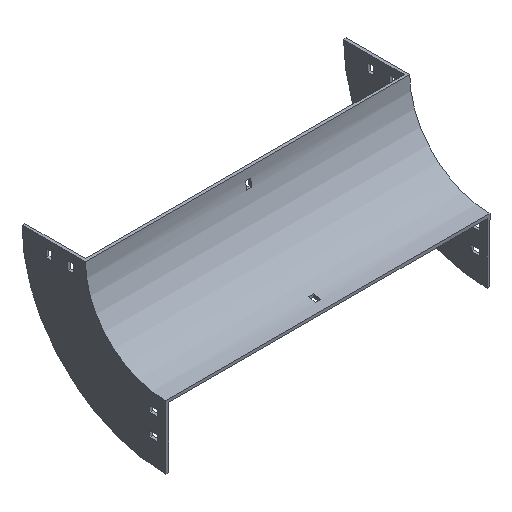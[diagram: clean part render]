
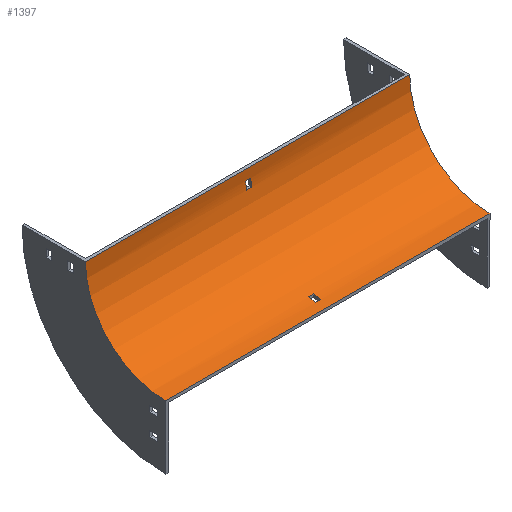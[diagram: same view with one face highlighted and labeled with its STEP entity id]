
A CAD part, isometric view. The second image highlights one B-rep face of the part: STEP entity #1397.
In plain terms, the highlighted cylindrical face has radius 100 mm (diameter 200 mm), a partial arc.
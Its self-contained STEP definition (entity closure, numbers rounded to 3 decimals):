
#3 = CARTESIAN_POINT ( 'NONE',  ( -202., 0., 0. ) ) ;
#36 = CARTESIAN_POINT ( 'NONE',  ( -3.25, -100., 0. ) ) ;
#68 = DIRECTION ( 'NONE',  ( -1., 0., 0. ) ) ;
#78 = DIRECTION ( 'NONE',  ( 0., 0., 1. ) ) ;
#86 = CIRCLE ( 'NONE', #1533, 100. ) ;
#101 = CARTESIAN_POINT ( 'NONE',  ( 3.25, -2.23, -21. ) ) ;
#103 = CARTESIAN_POINT ( 'NONE',  ( -3.25, -2.23, -21. ) ) ;
#105 = CARTESIAN_POINT ( 'NONE',  ( 202., -100., -100. ) ) ;
#108 = EDGE_CURVE ( 'NONE', #791, #602, #1205, .T. ) ;
#113 = CARTESIAN_POINT ( 'NONE',  ( 3.25, -79., -97.77 ) ) ;
#139 = VERTEX_POINT ( 'NONE', #1169 ) ;
#159 = VERTEX_POINT ( 'NONE', #443 ) ;
#180 = AXIS2_PLACEMENT_3D ( 'NONE', #1145, #1061, #1467 ) ;
#184 = DIRECTION ( 'NONE',  ( 0., -1., 0. ) ) ;
#190 = CIRCLE ( 'NONE', #862, 100. ) ;
#227 = CYLINDRICAL_SURFACE ( 'NONE', #1514, 100. ) ;
#252 = VERTEX_POINT ( 'NONE', #103 ) ;
#274 = ORIENTED_EDGE ( 'NONE', *, *, #502, .F. ) ;
#279 = CIRCLE ( 'NONE', #928, 100. ) ;
#296 = ORIENTED_EDGE ( 'NONE', *, *, #1340, .T. ) ;
#334 = ORIENTED_EDGE ( 'NONE', *, *, #1692, .T. ) ;
#357 = DIRECTION ( 'NONE',  ( -1., 0., 0. ) ) ;
#364 = CARTESIAN_POINT ( 'NONE',  ( 3.25, -0.723, -12. ) ) ;
#370 = CARTESIAN_POINT ( 'NONE',  ( 202., 0., 0. ) ) ;
#388 = EDGE_LOOP ( 'NONE', ( #274, #929, #1370, #415 ) ) ;
#415 = ORIENTED_EDGE ( 'NONE', *, *, #108, .F. ) ;
#420 = CARTESIAN_POINT ( 'NONE',  ( -202., -100., -100. ) ) ;
#443 = CARTESIAN_POINT ( 'NONE',  ( 202., 0., 0. ) ) ;
#458 = DIRECTION ( 'NONE',  ( -1., 0., 0. ) ) ;
#502 = EDGE_CURVE ( 'NONE', #139, #791, #190, .T. ) ;
#507 = DIRECTION ( 'NONE',  ( -1., 0., 0. ) ) ;
#530 = CIRCLE ( 'NONE', #871, 100. ) ;
#586 = VERTEX_POINT ( 'NONE', #1243 ) ;
#595 = EDGE_CURVE ( 'NONE', #159, #1522, #1153, .T. ) ;
#602 = VERTEX_POINT ( 'NONE', #1319 ) ;
#607 = CARTESIAN_POINT ( 'NONE',  ( 3.25, -100., 0. ) ) ;
#615 = DIRECTION ( 'NONE',  ( 1., 0., 0. ) ) ;
#622 = DIRECTION ( 'NONE',  ( -1., 0., 0. ) ) ;
#661 = EDGE_CURVE ( 'NONE', #159, #1639, #1180, .T. ) ;
#667 = AXIS2_PLACEMENT_3D ( 'NONE', #36, #705, #1062 ) ;
#676 = VERTEX_POINT ( 'NONE', #101 ) ;
#705 = DIRECTION ( 'NONE',  ( 1., 0., 0. ) ) ;
#721 = CARTESIAN_POINT ( 'NONE',  ( 202., -2.23, -21. ) ) ;
#726 = CARTESIAN_POINT ( 'NONE',  ( -202., -100., 0. ) ) ;
#740 = ORIENTED_EDGE ( 'NONE', *, *, #661, .F. ) ;
#752 = DIRECTION ( 'NONE',  ( -1., 0., 0. ) ) ;
#755 = CARTESIAN_POINT ( 'NONE',  ( 202., -100., 0. ) ) ;
#760 = FACE_OUTER_BOUND ( 'NONE', #1339, .T. ) ;
#791 = VERTEX_POINT ( 'NONE', #1162 ) ;
#794 = DIRECTION ( 'NONE',  ( 1., 0., 0. ) ) ;
#806 = CARTESIAN_POINT ( 'NONE',  ( 202., -88., -99.277 ) ) ;
#809 = EDGE_CURVE ( 'NONE', #1639, #914, #1314, .T. ) ;
#811 = VERTEX_POINT ( 'NONE', #364 ) ;
#827 = ORIENTED_EDGE ( 'NONE', *, *, #1122, .T. ) ;
#846 = ORIENTED_EDGE ( 'NONE', *, *, #809, .F. ) ;
#862 = AXIS2_PLACEMENT_3D ( 'NONE', #1095, #458, #1336 ) ;
#865 = DIRECTION ( 'NONE',  ( -1., 0., 0. ) ) ;
#871 = AXIS2_PLACEMENT_3D ( 'NONE', #726, #357, #78 ) ;
#914 = VERTEX_POINT ( 'NONE', #420 ) ;
#928 = AXIS2_PLACEMENT_3D ( 'NONE', #977, #1354, #184 ) ;
#929 = ORIENTED_EDGE ( 'NONE', *, *, #1299, .F. ) ;
#962 = VECTOR ( 'NONE', #68, 1000. ) ;
#977 = CARTESIAN_POINT ( 'NONE',  ( 3.25, -100., 0. ) ) ;
#980 = CARTESIAN_POINT ( 'NONE',  ( 202., -79., -97.77 ) ) ;
#1018 = VECTOR ( 'NONE', #752, 1000. ) ;
#1055 = VERTEX_POINT ( 'NONE', #113 ) ;
#1061 = DIRECTION ( 'NONE',  ( -1., 0., 0. ) ) ;
#1062 = DIRECTION ( 'NONE',  ( 0., 0., 1. ) ) ;
#1095 = CARTESIAN_POINT ( 'NONE',  ( -3.25, -100., 0. ) ) ;
#1098 = CIRCLE ( 'NONE', #667, 100. ) ;
#1122 = EDGE_CURVE ( 'NONE', #676, #252, #1129, .T. ) ;
#1129 = LINE ( 'NONE', #721, #1238 ) ;
#1145 = CARTESIAN_POINT ( 'NONE',  ( 202., -100., 0. ) ) ;
#1153 = LINE ( 'NONE', #370, #1018 ) ;
#1162 = CARTESIAN_POINT ( 'NONE',  ( -3.25, -88., -99.277 ) ) ;
#1169 = CARTESIAN_POINT ( 'NONE',  ( -3.25, -79., -97.77 ) ) ;
#1180 = CIRCLE ( 'NONE', #180, 100. ) ;
#1205 = LINE ( 'NONE', #806, #1287 ) ;
#1210 = ORIENTED_EDGE ( 'NONE', *, *, #1351, .T. ) ;
#1238 = VECTOR ( 'NONE', #865, 1000. ) ;
#1243 = CARTESIAN_POINT ( 'NONE',  ( -3.25, -0.723, -12. ) ) ;
#1251 = DIRECTION ( 'NONE',  ( 0., 0., -1. ) ) ;
#1262 = FACE_BOUND ( 'NONE', #1679, .T. ) ;
#1287 = VECTOR ( 'NONE', #794, 1000. ) ;
#1299 = EDGE_CURVE ( 'NONE', #1055, #139, #1487, .T. ) ;
#1303 = ORIENTED_EDGE ( 'NONE', *, *, #1657, .T. ) ;
#1310 = EDGE_CURVE ( 'NONE', #602, #1055, #279, .T. ) ;
#1314 = LINE ( 'NONE', #105, #1666 ) ;
#1319 = CARTESIAN_POINT ( 'NONE',  ( 3.25, -88., -99.277 ) ) ;
#1336 = DIRECTION ( 'NONE',  ( 0., 1., 0. ) ) ;
#1339 = EDGE_LOOP ( 'NONE', ( #1210, #846, #740, #1438 ) ) ;
#1340 = EDGE_CURVE ( 'NONE', #811, #676, #86, .T. ) ;
#1351 = EDGE_CURVE ( 'NONE', #1522, #914, #530, .T. ) ;
#1354 = DIRECTION ( 'NONE',  ( 1., 0., 0. ) ) ;
#1360 = DIRECTION ( 'NONE',  ( 0., 0., 1. ) ) ;
#1370 = ORIENTED_EDGE ( 'NONE', *, *, #1310, .F. ) ;
#1397 = ADVANCED_FACE ( 'NONE', ( #760, #1262, #1425 ), #227, .F. ) ;
#1425 = FACE_BOUND ( 'NONE', #388, .T. ) ;
#1438 = ORIENTED_EDGE ( 'NONE', *, *, #595, .T. ) ;
#1467 = DIRECTION ( 'NONE',  ( 0., 0., 1. ) ) ;
#1487 = LINE ( 'NONE', #980, #962 ) ;
#1493 = VECTOR ( 'NONE', #615, 1000. ) ;
#1514 = AXIS2_PLACEMENT_3D ( 'NONE', #755, #1638, #1360 ) ;
#1522 = VERTEX_POINT ( 'NONE', #3 ) ;
#1525 = CARTESIAN_POINT ( 'NONE',  ( 202., -0.723, -12. ) ) ;
#1533 = AXIS2_PLACEMENT_3D ( 'NONE', #607, #622, #1251 ) ;
#1581 = CARTESIAN_POINT ( 'NONE',  ( 202., -100., -100. ) ) ;
#1638 = DIRECTION ( 'NONE',  ( -1., 0., 0. ) ) ;
#1639 = VERTEX_POINT ( 'NONE', #1581 ) ;
#1657 = EDGE_CURVE ( 'NONE', #252, #586, #1098, .T. ) ;
#1666 = VECTOR ( 'NONE', #507, 1000. ) ;
#1675 = LINE ( 'NONE', #1525, #1493 ) ;
#1679 = EDGE_LOOP ( 'NONE', ( #827, #1303, #334, #296 ) ) ;
#1692 = EDGE_CURVE ( 'NONE', #586, #811, #1675, .T. ) ;
